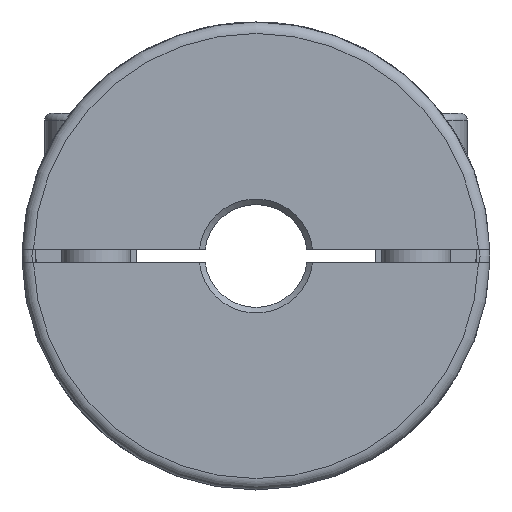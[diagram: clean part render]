
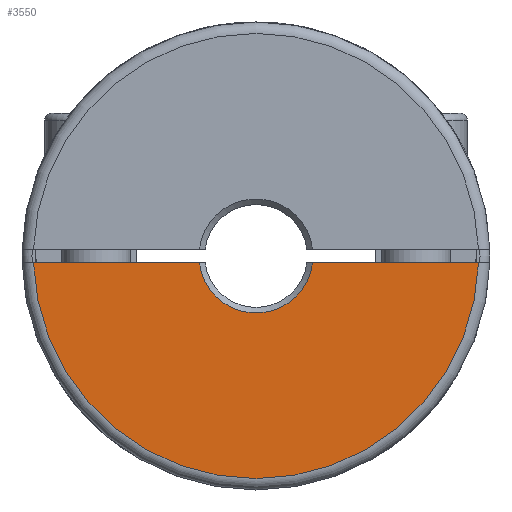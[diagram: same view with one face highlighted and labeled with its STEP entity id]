
A CAD part, left-side view. The second image highlights one B-rep face of the part: STEP entity #3550.
In plain terms, the highlighted planar face has unit normal (-1, 0, 0).
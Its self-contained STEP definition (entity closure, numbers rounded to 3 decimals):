
#145=LINE('',#6134,#289);
#149=LINE('',#6169,#293);
#289=VECTOR('',#4896,1000.);
#293=VECTOR('',#4922,1000.);
#993=ORIENTED_EDGE('',*,*,#1553,.F.);
#994=ORIENTED_EDGE('',*,*,#1571,.T.);
#995=ORIENTED_EDGE('',*,*,#1565,.F.);
#996=ORIENTED_EDGE('',*,*,#1572,.F.);
#1553=EDGE_CURVE('',#1916,#1917,#145,.T.);
#1565=EDGE_CURVE('',#1927,#1928,#149,.T.);
#1571=EDGE_CURVE('',#1916,#1928,#2198,.T.);
#1572=EDGE_CURVE('',#1917,#1927,#2199,.T.);
#1916=VERTEX_POINT('',#6133);
#1917=VERTEX_POINT('',#6135);
#1927=VERTEX_POINT('',#6170);
#1928=VERTEX_POINT('',#6171);
#2198=CIRCLE('',#3989,10.);
#2199=CIRCLE('',#3991,39.);
#2571=EDGE_LOOP('',(#993,#994,#995,#996));
#3046=FACE_BOUND('',#2571,.T.);
#3334=PLANE('',#3990);
#3550=ADVANCED_FACE('',(#3046),#3334,.F.);
#3989=AXIS2_PLACEMENT_3D('',#6189,#4929,#4930);
#3990=AXIS2_PLACEMENT_3D('',#6190,#4931,#4932);
#3991=AXIS2_PLACEMENT_3D('',#6191,#4933,#4934);
#4896=DIRECTION('',(0.,-1.,0.));
#4922=DIRECTION('',(0.,-1.,0.));
#4929=DIRECTION('',(1.,0.,0.));
#4930=DIRECTION('',(0.,0.,1.));
#4931=DIRECTION('',(1.,0.,0.));
#4932=DIRECTION('',(0.,0.,1.));
#4933=DIRECTION('',(1.,0.,0.));
#4934=DIRECTION('',(0.,0.,1.));
#6133=CARTESIAN_POINT('',(-142.,-9.928,-1.2));
#6134=CARTESIAN_POINT('',(-142.,0.,-1.2));
#6135=CARTESIAN_POINT('',(-142.,-38.982,-1.2));
#6169=CARTESIAN_POINT('',(-142.,0.,-1.2));
#6170=CARTESIAN_POINT('',(-142.,38.982,-1.2));
#6171=CARTESIAN_POINT('',(-142.,9.928,-1.2));
#6189=CARTESIAN_POINT('',(-142.,0.,0.));
#6190=CARTESIAN_POINT('',(-142.,0.,9.));
#6191=CARTESIAN_POINT('',(-142.,0.,0.));
